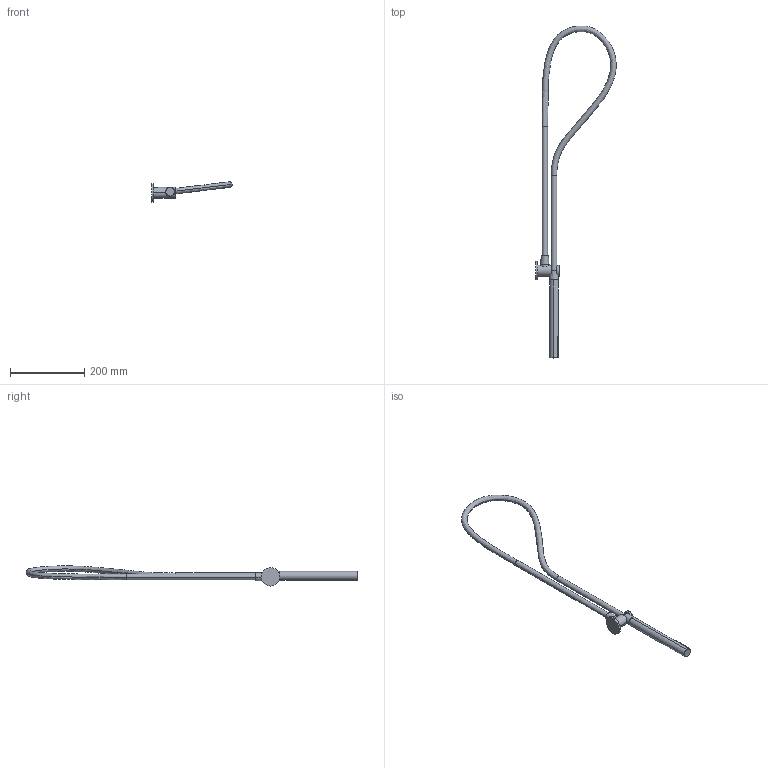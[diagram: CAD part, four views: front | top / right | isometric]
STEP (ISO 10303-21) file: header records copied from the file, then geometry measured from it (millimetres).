
FILE_DESCRIPTION((''),'2;1');
FILE_NAME('45400_SW0003','2020-07-16T16:01:51',('carloff'),(''),'CREO PARAMETRIC BY PTC INC, 2018100','CREO PARAMETRIC BY PTC INC, 2018100','');
FILE_SCHEMA(('CONFIG_CONTROL_DESIGN'));
Length unit declared in the file: millimetre
Products named in the file (1): 45400_SW0003
Bounding box: 216.27 x 893.18 x 54.49 mm (x, y, z)
Volume: 395951.8 mm3; surface area: 99010.4 mm2
Topology: 1 solids, 3 shells, 194 faces, 399 edges, 260 vertices
Faces by surface type: cylinder 115, plane 60, cone 9, torus 8, bspline 2
Entity records: 8681 total; most frequent: CARTESIAN_POINT 4597, DIRECTION 823, ORIENTED_EDGE 798, EDGE_CURVE 399, AXIS2_PLACEMENT_3D 348, VERTEX_POINT 260, EDGE_LOOP 247, FACE_OUTER_BOUND 194
